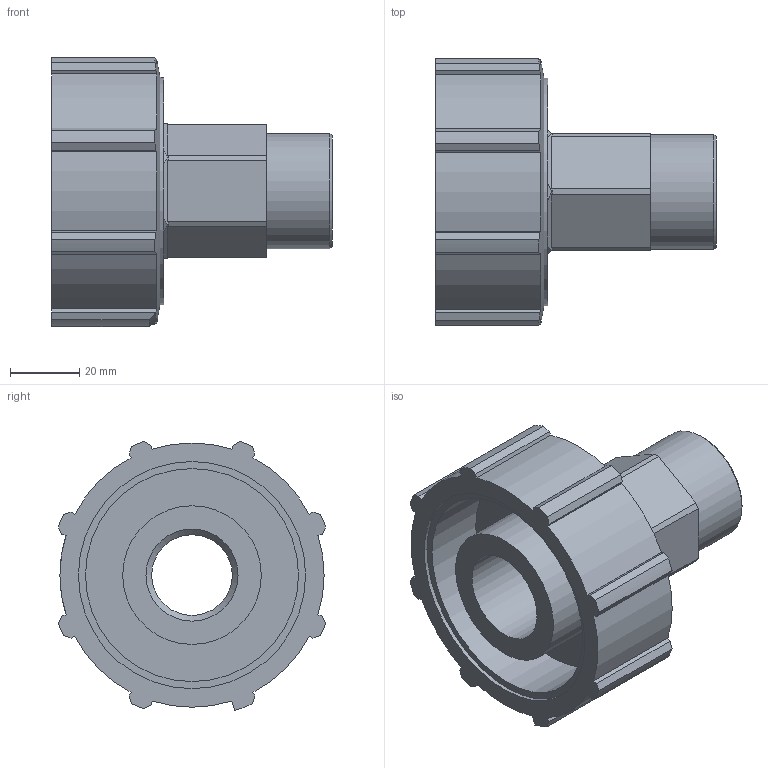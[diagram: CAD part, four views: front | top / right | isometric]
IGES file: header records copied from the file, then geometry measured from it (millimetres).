
Global section: file name: 072700040010_182700040010_72706040010.ipt; native system: Autodesk Inventor 2015; preprocessor: unknown; author: KIM; date: 20170606.172345; units: millimetre
Bounding box: 81 x 77.16 x 77.68 mm (x, y, z)
Volume: 106624.5 mm3; surface area: 37930.2 mm2
Topology: 1 solids, 1 shells, 92 faces, 258 edges, 174 vertices
Faces by surface type: plane 63, cylinder 20, revolution 6, cone 3
Full cylindrical faces by diameter (mm): 33.249 x1, 39.1 x1, 40 x1, 65.6 x1
